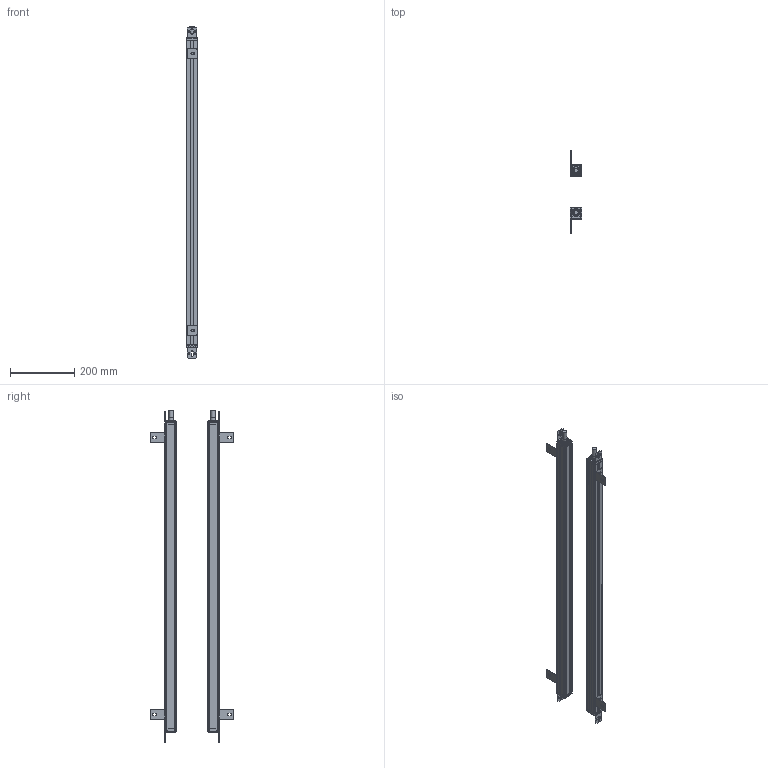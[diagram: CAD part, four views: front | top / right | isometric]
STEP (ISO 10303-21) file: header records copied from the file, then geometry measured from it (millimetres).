
FILE_DESCRIPTION(/* description */ (''),/* implementation_level */ '2;1');
FILE_NAME(/* name */ '4620_35X35_stp.stp',/* time_stamp */ '2023-09-18T16:27:16+08:00',/* author */ (''),/* organization */ (''),/* preprocessor_version */ 'ST-DEVELOPER v16.7',/* originating_system */ 'SIEMENS PLM Software NX 12.0',/* authorisation */ '');
FILE_SCHEMA (('AP203_CONFIGURATION_CONTROLLED_3D_DESIGN_OF_MECHANICAL_PARTS_AND_ASSEMBLIES_MIM_LF { 1 0 10303 403 2 1 2}'));
Length unit declared in the file: millimetre
Products named in the file (1): 4620_35X35_stp_stp
Bounding box: 35.41 x 258.01 x 1031.6 mm (x, y, z)
Volume: 946045.3 mm3; surface area: 713640.5 mm2
Topology: 28 solids, 28 shells, 1182 faces, 3360 edges, 2260 vertices
Faces by surface type: plane 658, cylinder 464, cone 60
Full cylindrical faces by diameter (mm): 3.2 x8, 6 x24, 13 x2, 14.4 x2, 15 x2
Entity records: 39055 total; most frequent: DIRECTION 6832, CARTESIAN_POINT 6745, ORIENTED_EDGE 6612, EDGE_CURVE 3306, AXIS2_PLACEMENT_3D 2347, VERTEX_POINT 2244, LINE 2138, VECTOR 2138
